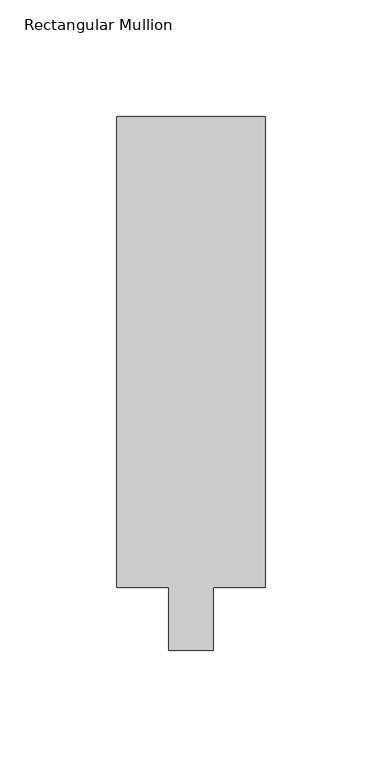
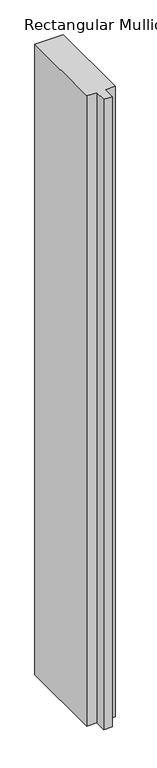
"""IFC4 building model written with IfcOpenShell, lengths in millimetres: member geometry."""

import ifcopenshell
import ifcopenshell.guid

model = None  # the IFC model being written
_history = None  # IfcOwnerHistory: only IFC2X3 demands one
_inside = {}  # id of a spatial element -> (the spatial element, [elements in it])
_under = {}  # id of a project, library or spatial element -> (it, [spatial elements below it])
_declared = {}  # id of a project -> (the project, [libraries it declares])
_typed = {}  # id of a type object -> (the type object, [elements of that type])
_made_of = {}  # id of a material, layer set ... -> (it, [elements and type objects made of it])


def new_model(schema):
    """Start an empty IFC model of exactly this schema.

    Asked for "IFC4X3", IfcOpenShell would pick the latest addendum, in which some entities
    have other attributes; the version numbers below select the first issue.
    IFC2X3 requires an IfcOwnerHistory on every rooted entity: one is made here for all.
    """
    global model, _history
    if schema == "IFC4X3":
        model = ifcopenshell.file(schema_version=(4, 3, 0, 0))
    else:
        model = ifcopenshell.file(schema=schema)
    _inside.clear()
    _under.clear()
    _declared.clear()
    _typed.clear()
    _made_of.clear()
    _history = None
    if model.schema == "IFC2X3":
        org = make("IfcOrganization", Name="unknown")
        user = make(
            "IfcPersonAndOrganization",
            ThePerson=make("IfcPerson", FamilyName="unknown"),
            TheOrganization=org,
        )
        app = make(
            "IfcApplication",
            ApplicationDeveloper=org,
            Version="unknown",
            ApplicationFullName="unknown",
            ApplicationIdentifier="unknown",
        )
        _history = make(
            "IfcOwnerHistory",
            OwningUser=user,
            OwningApplication=app,
            ChangeAction="ADDED",
            CreationDate=0,
        )
    return model


def make(cls, **values):
    """One entity of the class cls with the attributes given. An attribute that is None is left unset."""
    return model.create_entity(
        cls, **{name: value for name, value in values.items() if value is not None}
    )


def rooted(cls, **values):
    """An entity with a GlobalId (a new one), such as an element, a storey or a relation."""
    return make(cls, GlobalId=ifcopenshell.guid.new(), OwnerHistory=_history, **values)


def si_unit(unit_type, name, prefix=None):
    """IfcSIUnit, for example si_unit("LENGTHUNIT", "METRE", prefix="MILLI")."""
    return make("IfcSIUnit", UnitType=unit_type, Prefix=prefix, Name=name)


def assignment(units):
    """IfcUnitAssignment: the units of a project."""
    return None if units is None else make("IfcUnitAssignment", Units=units)


def point(xyz):
    """IfcCartesianPoint."""
    return None if xyz is None else make("IfcCartesianPoint", Coordinates=xyz)


def direction(xyz):
    """IfcDirection."""
    return None if xyz is None else make("IfcDirection", DirectionRatios=xyz)


def frame(location, z_axis=None, x_axis=None):
    """IfcAxis2Placement3D, a coordinate frame: its origin and axes. An axis left out is left unset."""
    return make(
        "IfcAxis2Placement3D",
        Location=point(location),
        Axis=direction(z_axis),
        RefDirection=direction(x_axis),
    )


def origin():
    """The frame at (0, 0, 0) with its axes left unset."""
    return frame((0.0, 0.0, 0.0))


def place(relative_to, where):
    """IfcLocalPlacement: puts the frame where relative to a parent placement (None: the world)."""
    return make(
        "IfcLocalPlacement", PlacementRelTo=relative_to, RelativePlacement=where
    )


def context(
    kind, dimensions, precision=None, world=None, true_north=None, identifier=None
):
    """IfcGeometricRepresentationContext, for example the 3D "Model" context."""
    return make(
        "IfcGeometricRepresentationContext",
        ContextIdentifier=identifier,
        ContextType=kind,
        CoordinateSpaceDimension=dimensions,
        Precision=precision,
        WorldCoordinateSystem=world,
        TrueNorth=true_north,
    )


def project(units=None, contexts=None):
    """IfcProject with its units and contexts."""
    return rooted(
        "IfcProject",
        Name="project",
        RepresentationContexts=contexts,
        UnitsInContext=assignment(units),
    )


def spatial(cls, under=None, at=None, **own):
    """A site, building, storey or space (cls), placed at a placement, below another one or the project."""
    s = rooted(cls, ObjectPlacement=at, **own)
    if under is not None:
        _under.setdefault(under.id(), (under, []))[1].append(s)
    return s


def polyline(points):
    """IfcPolyline through the points."""
    return make("IfcPolyline", Points=[point(p) for p in points])


def outline(outer, holes=None, kind="AREA"):
    """IfcArbitraryClosedProfileDef: a profile drawn as a closed curve; with holes, ...WithVoids."""
    if holes is None:
        return make("IfcArbitraryClosedProfileDef", ProfileType=kind, OuterCurve=outer)
    return make(
        "IfcArbitraryProfileDefWithVoids",
        ProfileType=kind,
        OuterCurve=outer,
        InnerCurves=holes,
    )


def extrude(swept, where, along, depth):
    """IfcExtrudedAreaSolid: the profile swept, set in the frame where, extruded along a direction by depth."""
    return make(
        "IfcExtrudedAreaSolid",
        SweptArea=swept,
        Position=where,
        ExtrudedDirection=direction(along),
        Depth=depth,
    )


def shape(context_of_items, identifier, shape_type, items):
    """IfcShapeRepresentation: the items that make up one representation, for example the "Body"."""
    return make(
        "IfcShapeRepresentation",
        ContextOfItems=context_of_items,
        RepresentationIdentifier=identifier,
        RepresentationType=shape_type,
        Items=items,
    )


def source(mapping_origin, context_of_items, identifier, shape_type, items):
    """IfcRepresentationMap: a shape defined once, which mapped items show again and again."""
    return make(
        "IfcRepresentationMap",
        MappingOrigin=mapping_origin,
        MappedRepresentation=shape(context_of_items, identifier, shape_type, items),
    )


def transform(
    local_origin,
    x_axis=None,
    y_axis=None,
    z_axis=None,
    scale=None,
    scale2=None,
    scale3=None,
    uniform=True,
):
    """IfcCartesianTransformationOperator3D, or its non-uniform kind. x_axis, y_axis, z_axis: its Axis1, 2, 3."""
    if uniform:
        return make(
            "IfcCartesianTransformationOperator3D",
            Axis1=direction(x_axis),
            Axis2=direction(y_axis),
            LocalOrigin=point(local_origin),
            Scale=scale,
            Axis3=direction(z_axis),
        )
    return make(
        "IfcCartesianTransformationOperator3DnonUniform",
        Axis1=direction(x_axis),
        Axis2=direction(y_axis),
        LocalOrigin=point(local_origin),
        Scale=scale,
        Axis3=direction(z_axis),
        Scale2=scale2,
        Scale3=scale3,
    )


def mapped(mapping_source, mapping_target):
    """IfcMappedItem: shows the shape of a source again, moved by a transform."""
    return make(
        "IfcMappedItem", MappingSource=mapping_source, MappingTarget=mapping_target
    )


def made_of(thing, what):
    """Note that an element or type object is made of a material, layer set ...; save() writes the relation."""
    if what is not None:
        _made_of.setdefault(what.id(), (what, []))[1].append(thing)
    return thing


def element(
    cls,
    number,
    at=None,
    inside=None,
    cuts=None,
    type_object=None,
    material=None,
    context=None,
    identifier="Body",
    shape_type=None,
    held_by="IfcProductDefinitionShape",
    body=None,
    shapes=None,
    **own,
):
    """One element of the class cls, such as IfcWall. Its Tag is "e" and its number.

    at: its placement. inside: the storey or other place that contains it. cuts: it is an
    opening in that element (IfcRelVoidsElement). A single representation is given by context,
    identifier, shape_type and body (its items); several are given by shapes. held_by: the class
    of the entity that holds the representations. save() writes the other relations.
    """
    e = rooted(cls, Tag="e%d" % number, ObjectPlacement=at, **own)
    if body is not None:
        shapes = [shape(context, identifier, shape_type, body)]
    if shapes is not None:
        e.Representation = make(held_by, Representations=shapes)
    if inside is not None:
        _inside.setdefault(inside.id(), (inside, []))[1].append(e)
    if cuts is not None:
        rooted(
            "IfcRelVoidsElement", RelatingBuildingElement=cuts, RelatedOpeningElement=e
        )
    if type_object is not None:
        _typed.setdefault(type_object.id(), (type_object, []))[1].append(e)
    return made_of(e, material)


def aggregate(whole, parts):
    """IfcRelAggregates: a whole, such as a stair, and the parts it consists of."""
    return rooted("IfcRelAggregates", RelatingObject=whole, RelatedObjects=parts)


def save(model, path):
    """Write the relations noted so far, then the file.

    IfcRelAggregates (storeys below a building ...), IfcRelContainedInSpatialStructure (elements
    in a storey), IfcRelDefinesByType, IfcRelAssociatesMaterial and IfcRelDeclares: one each for
    every whole, place, type object, material and project.
    """
    for whole, parts in _under.values():
        aggregate(whole, parts)
    for where, things in _inside.values():
        rooted(
            "IfcRelContainedInSpatialStructure",
            RelatedElements=things,
            RelatingStructure=where,
        )
    for kind, things in _typed.values():
        rooted("IfcRelDefinesByType", RelatedObjects=things, RelatingType=kind)
    for what, things in _made_of.values():
        rooted("IfcRelAssociatesMaterial", RelatedObjects=things, RelatingMaterial=what)
    for by, libraries in _declared.values():
        rooted("IfcRelDeclares", RelatingContext=by, RelatedDefinitions=libraries)
    model.write(path)


def rectangular_mullion_dff13a2a(model_context):
    return source(origin(), model_context, "Body", "SweptSolid", [
        extrude(outline(polyline([(-63.5, 228.6), (0.0, 228.6), (0.0, 26.9875), (-22.225, 26.9875), (-22.225, 0.0), (-41.275, 0.0), (-41.275, 26.9875), (-63.5, 26.9875), (-63.5, 228.6)])), frame((0.0, 0.0, -1494.3666667), z_axis=(0.0, 0.0, 1.0), x_axis=(1.0, 0.0, 0.0)), (0.0, 0.0, 1.0), 1494.3666667),
    ])


if __name__ == "__main__":
    model = new_model("IFC4")
    model_context = context("Model", 3, world=origin())
    ifc_project = project(units=[si_unit("LENGTHUNIT", "METRE", prefix="MILLI")], contexts=[model_context])
    site = spatial("IfcSite", under=ifc_project)
    building = spatial("IfcBuilding", under=site)
    placement = place(None, origin())
    rectangular_mullion_shape = rectangular_mullion_dff13a2a(model_context)
    element("IfcMember", 1, ObjectType="Rectangular Mullion : 2 1/2\" x 8\" - Capless", at=placement, inside=building, context=model_context, shape_type="MappedRepresentation", body=[
        mapped(rectangular_mullion_shape, transform((0.0, 0.0, 0.0), x_axis=(1.0, 0.0, 0.0), y_axis=(0.0, 1.0, 0.0), z_axis=(0.0, 0.0, 1.0))),
    ])
    save(model, "model.ifc")
